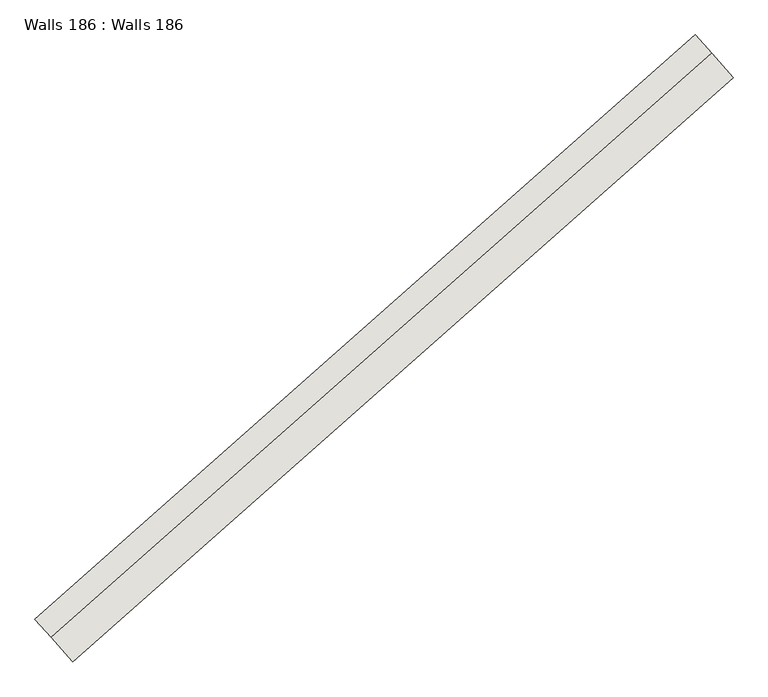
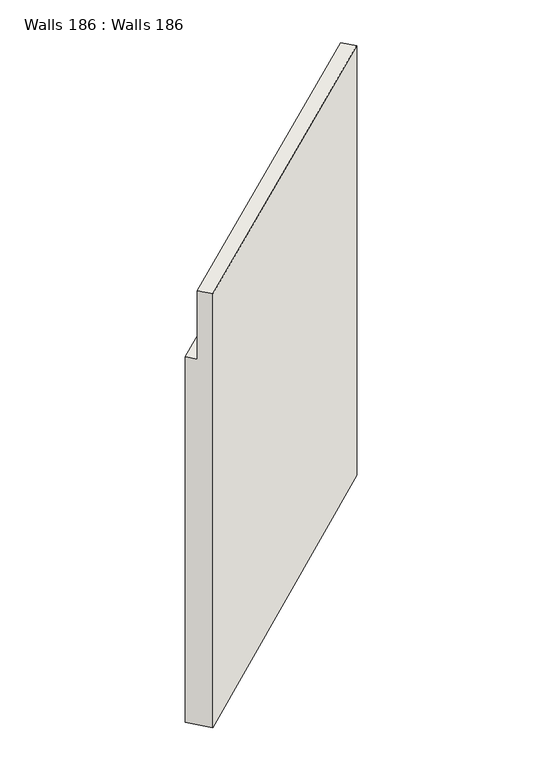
"""IFC4 building model written with IfcOpenShell, lengths in millimetres: wall geometry, Walls 186 : Walls 186."""

from ifc_helpers import new_model, si_unit, origin, place, context, project, spatial, faceted_brep, source, transform, mapped, element, save


def walls_186_walls_186_8c0fa035(model_context):
    return source(origin(), model_context, "Body", "Brep", [
        faceted_brep([(344398.5004878, 257013.879708, 644339.5481107), (344630.484335, 256751.8043474, 644339.5481107), (344630.484335, 256751.8043474, 650669.5481107), (344497.9221366, 256901.5616963, 650669.5481107), (344497.9221366, 256901.5616963, 649669.5481107), (344398.5004878, 257013.879708, 649669.5481107), (348455.3826514, 260604.8167955, 644420.0), (348455.3826514, 260604.8167955, 649690.0), (348554.8043002, 260492.4987839, 649690.0), (348554.8043002, 260492.4987839, 650690.0), (348687.3664986, 260342.7414349, 650690.0), (348687.3664986, 260342.7414349, 644420.0)], [[[0, 1, 2, 3, 4, 5]], [[6, 7, 8, 9, 10, 11]], [[6, 11, 1, 0]], [[11, 10, 2, 1]], [[10, 9, 3, 2]], [[9, 8, 4, 3]], [[8, 7, 5, 4]], [[7, 6, 0, 5]]]),
    ])


if __name__ == "__main__":
    model = new_model("IFC4")
    model_context = context("Model", 3, world=origin())
    ifc_project = project(units=[si_unit("LENGTHUNIT", "METRE", prefix="MILLI")], contexts=[model_context])
    site = spatial("IfcSite", under=ifc_project)
    building = spatial("IfcBuilding", under=site)
    placement = place(None, origin())
    walls_186_walls_186_shape = walls_186_walls_186_8c0fa035(model_context)
    element("IfcWall", 1, ObjectType="Walls 186 : Walls 186", at=placement, inside=building, context=model_context, shape_type="MappedRepresentation", body=[
        mapped(walls_186_walls_186_shape, transform((0.0, 0.0, 0.0), x_axis=(1.0, 0.0, 0.0), y_axis=(0.0, 1.0, 0.0), z_axis=(0.0, 0.0, 1.0))),
    ])
    save(model, "model.ifc")
